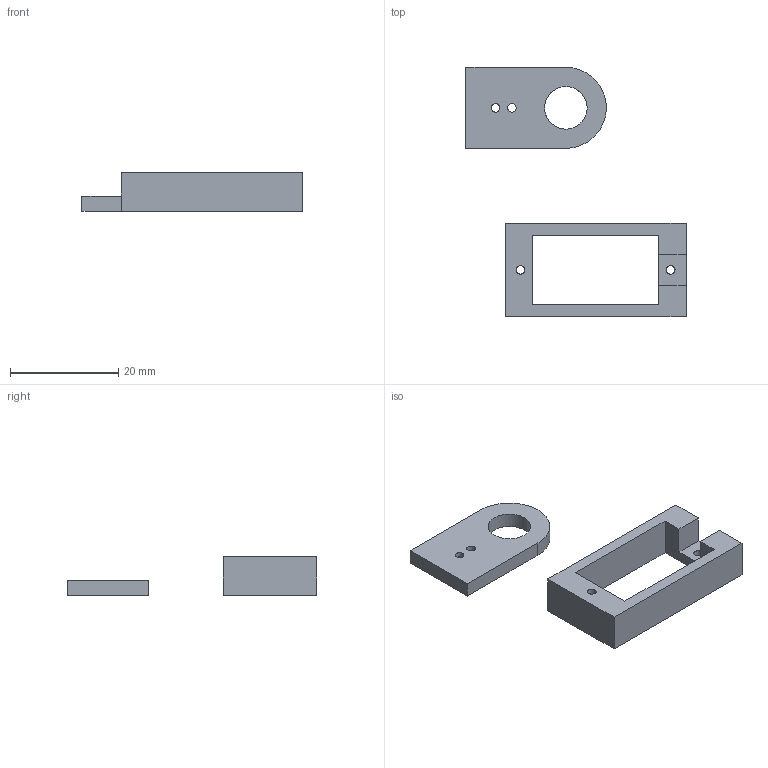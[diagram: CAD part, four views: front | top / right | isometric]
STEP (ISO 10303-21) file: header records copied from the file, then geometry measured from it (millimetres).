
FILE_DESCRIPTION(('FreeCAD Model'),'2;1');
FILE_NAME('Open CASCADE Shape Model','2026-11-08T20:38:39',('FreeCAD'),( 'FreeCAD'),'Open CASCADE STEP processor 7.8','FreeCAD','Unknown');
FILE_SCHEMA(('AUTOMOTIVE_DESIGN { 1 0 10303 214 1 1 1 1 }'));
Length unit declared in the file: millimetre
Products named in the file (1): Open CASCADE STEP translator 7.8 12
Bounding box: 40.75 x 46.15 x 7.21 mm (x, y, z)
Volume: 2582.7 mm3; surface area: 2848.1 mm2
Topology: 2 solids, 2 shells, 35 faces, 95 edges, 64 vertices
Faces by surface type: plane 25, cylinder 10
Full cylindrical faces by diameter (mm): 1.6 x6, 7.9 x1
Entity records: 1141 total; most frequent: CARTESIAN_POINT 195, DIRECTION 191, ORIENTED_EDGE 190, EDGE_CURVE 95, LINE 71, VECTOR 71, VERTEX_POINT 64, AXIS2_PLACEMENT_3D 60
